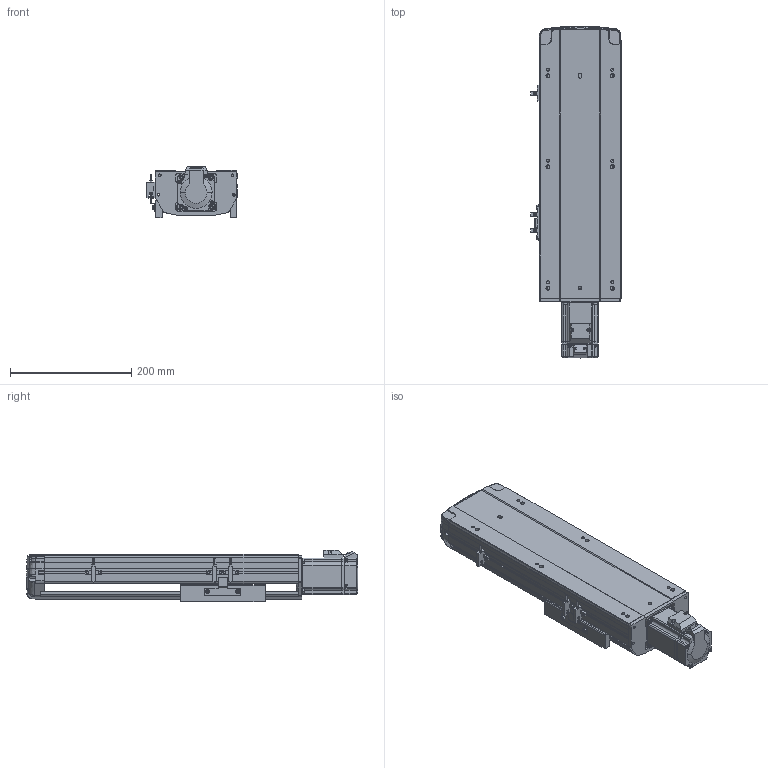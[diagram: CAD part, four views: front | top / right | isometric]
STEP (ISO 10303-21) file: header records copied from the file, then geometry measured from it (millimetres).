
FILE_DESCRIPTION (( 'STEP AP203' ), '1' );
FILE_NAME ('4.STEP', '2020-11-07T01:36:22', ( '' ), ( '' ), 'SwSTEP 2.0', 'SolidWorks 2016', '' );
FILE_SCHEMA (( 'CONFIG_CONTROL_DESIGN' ));
Length unit declared in the file: millimetre
Products named in the file (7): BTH14-BC-P20; BTH14-BC-04; BTH14-BC-01; BTH14-BC-菁釱; 4; BTH14-BC-HZ; BTH14-BC-02
Assembly tree (8 placements, depth 2):
  4
    BTH14-BC-菁釱
    BTH14-BC-01
    BTH14-BC-02
    BTH14-BC-04  x3
    BTH14-BC-HZ
    BTH14-BC-P20
Bounding box: 148.7 x 547.02 x 84.91 mm (x, y, z)
Volume: 2268837.6 mm3; surface area: 510381.6 mm2
Topology: 12 solids, 12 shells, 1726 faces, 4717 edges, 3059 vertices
Faces by surface type: plane 913, cylinder 467, bspline 200, cone 102, torus 44
Entity records: 60719 total; most frequent: CARTESIAN_POINT 22604, ORIENTED_EDGE 8278, DIRECTION 7129, EDGE_CURVE 4139, VERTEX_POINT 2699, AXIS2_PLACEMENT_3D 2402, LINE 2325, VECTOR 2325
